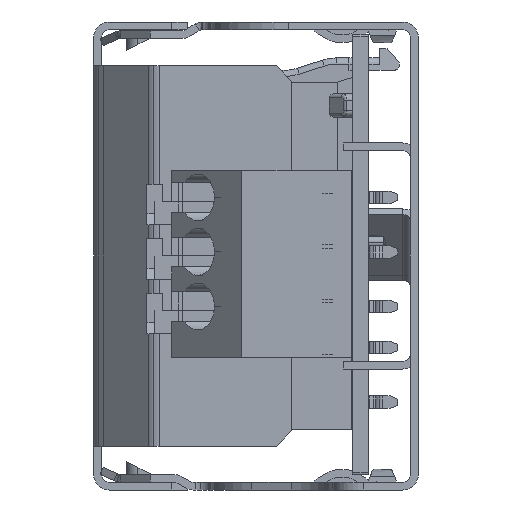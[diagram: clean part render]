
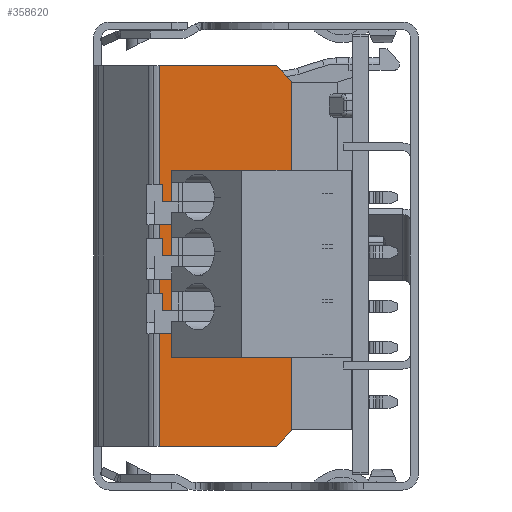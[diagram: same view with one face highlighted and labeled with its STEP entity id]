
A CAD part, left-side view. The second image highlights one B-rep face of the part: STEP entity #358620.
In plain terms, the highlighted planar face has unit normal (-1, 0, 0) as drawn and (1, 0, 0) by its records, which use the part's own axes.
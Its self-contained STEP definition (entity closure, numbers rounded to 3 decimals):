
#342050=CARTESIAN_POINT('',(77.75,-4.2,12.2));
#342060=VERTEX_POINT('',#342050);
#342090=CARTESIAN_POINT('',(77.75,-11.7,12.2));
#342100=DIRECTION('',(0.,1.,0.));
#342110=VECTOR('',#342100,1.);
#342120=LINE('',#342090,#342110);
#342130=CARTESIAN_POINT('',(77.75,-11.7,12.2));
#342140=VERTEX_POINT('',#342130);
#342150=EDGE_CURVE('',#342140,#342060,#342120,.T.);
#343610=CARTESIAN_POINT('',(77.75,-11.7,-12.2));
#343620=VERTEX_POINT('',#343610);
#343650=CARTESIAN_POINT('',(77.75,-11.7,-12.2));
#343660=DIRECTION('',(0.,1.,0.));
#343670=VECTOR('',#343660,1.);
#343680=LINE('',#343650,#343670);
#343690=CARTESIAN_POINT('',(77.75,-4.2,-12.2));
#343700=VERTEX_POINT('',#343690);
#343710=EDGE_CURVE('',#343620,#343700,#343680,.T.);
#357050=CARTESIAN_POINT('',(77.75,-4.2,-12.2));
#357060=DIRECTION('',(0.,0.,1.));
#357070=VECTOR('',#357060,1.);
#357080=LINE('',#357050,#357070);
#357090=EDGE_CURVE('',#343700,#342060,#357080,.T.);
#358070=CARTESIAN_POINT('',(77.75,-12.7,11.2));
#358080=VERTEX_POINT('',#358070);
#358130=CARTESIAN_POINT('',(77.75,-12.7,11.2));
#358140=DIRECTION('',(0.,0.707,0.707));
#358150=VECTOR('',#358140,1.);
#358160=LINE('',#358130,#358150);
#358170=EDGE_CURVE('',#358080,#342140,#358160,.T.);
#358220=CARTESIAN_POINT('',(77.75,-4.2,-12.2));
#358230=DIRECTION('',(-1.,0.,0.));
#358240=DIRECTION('',(0.,-1.,0.));
#358250=AXIS2_PLACEMENT_3D('',#358220,#358230,#358240);
#358260=PLANE('',#358250);
#358270=ORIENTED_EDGE('',*,*,#342150,.F.);
#358280=ORIENTED_EDGE('',*,*,#357090,.T.);
#358290=ORIENTED_EDGE('',*,*,#343710,.T.);
#358300=CARTESIAN_POINT('',(77.75,-11.7,-12.2));
#358310=DIRECTION('',(0.,-0.707,0.707));
#358320=VECTOR('',#358310,1.);
#358330=LINE('',#358300,#358320);
#358340=CARTESIAN_POINT('',(77.75,-12.7,-11.2));
#358350=VERTEX_POINT('',#358340);
#358360=EDGE_CURVE('',#343620,#358350,#358330,.T.);
#358370=ORIENTED_EDGE('',*,*,#358360,.F.);
#358380=CARTESIAN_POINT('',(77.75,-12.7,11.2));
#358390=DIRECTION('',(0.,0.,-1.));
#358400=VECTOR('',#358390,1.);
#358410=LINE('',#358380,#358400);
#358420=EDGE_CURVE('',#358080,#358350,#358410,.T.);
#358430=ORIENTED_EDGE('',*,*,#358420,.T.);
#358440=ORIENTED_EDGE('',*,*,#358170,.F.);
#358450=EDGE_LOOP('',(#358440,#358430,#358370,#358290,#358280,#358270));
#358460=FACE_OUTER_BOUND('',#358450,.T.);
#358470=CARTESIAN_POINT('',(77.75,-7.3,0.));
#358480=DIRECTION('',(1.,0.,-0.));
#358490=DIRECTION('',(0.,0.,1.));
#358500=AXIS2_PLACEMENT_3D('',#358470,#358480,#358490);
#358510=CIRCLE('',#358500,1.);
#358520=CARTESIAN_POINT('',(77.75,-7.3,1.));
#358530=VERTEX_POINT('',#358520);
#358540=CARTESIAN_POINT('',(77.75,-7.3,-1.));
#358550=VERTEX_POINT('',#358540);
#358560=EDGE_CURVE('',#358530,#358550,#358510,.T.);
#358570=ORIENTED_EDGE('',*,*,#358560,.F.);
#358580=EDGE_CURVE('',#358550,#358530,#358510,.T.);
#358590=ORIENTED_EDGE('',*,*,#358580,.F.);
#358600=EDGE_LOOP('',(#358590,#358570));
#358610=FACE_BOUND('',#358600,.T.);
#358620=ADVANCED_FACE('',(#358460,#358610),#358260,.F.);
